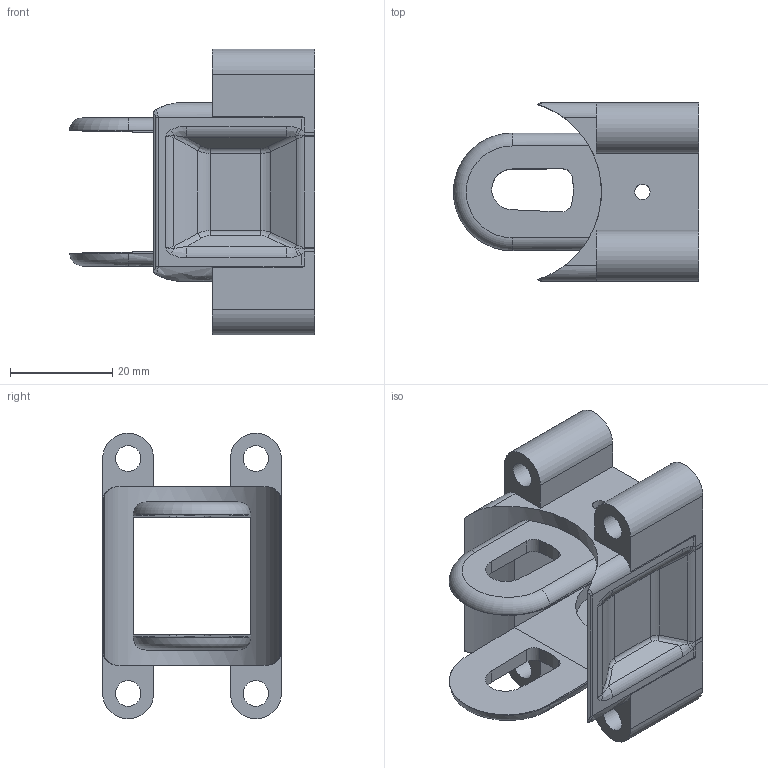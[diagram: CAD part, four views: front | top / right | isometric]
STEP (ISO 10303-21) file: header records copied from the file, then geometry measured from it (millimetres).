
FILE_DESCRIPTION((''),'2;1');
FILE_NAME('E:\Uebbing\temp\PFR 121\PFR 121 Stirnflanschanschluss01.stp','2010-08-16T10:58:35',('UebbingXP'),(''),'Autodesk Inventor 10','Autodesk Inventor 10','');
FILE_SCHEMA(('AUTOMOTIVE_DESIGN { 1 0 10303 214 1 1 1 1 }'));
Length unit declared in the file: millimetre
Products named in the file (1): PFR 121 Stirnflanschanschluss01
Bounding box: 48 x 35 x 55.98 mm (x, y, z)
Volume: 19899 mm3; surface area: 13118.1 mm2
Topology: 1 solids, 1 shells, 180 faces, 464 edges, 282 vertices
Faces by surface type: bspline 102, plane 39, cylinder 36, torus 3
Full cylindrical faces by diameter (mm): 3 x1, 5 x2
Entity records: 7837 total; most frequent: CARTESIAN_POINT 3812, ORIENTED_EDGE 908, DIRECTION 698, EDGE_CURVE 454, VERTEX_POINT 282, AXIS2_PLACEMENT_3D 237, VECTOR 224, LINE 224
